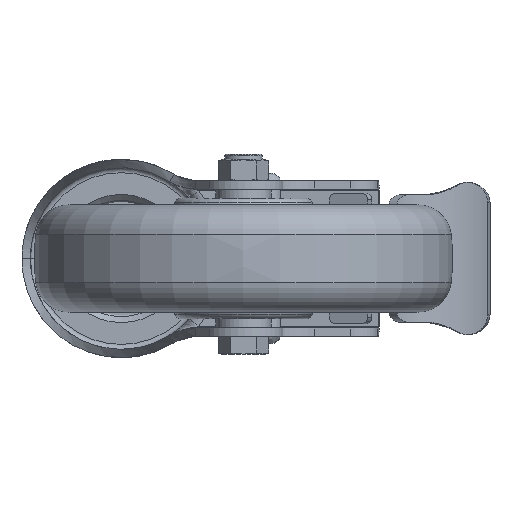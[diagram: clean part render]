
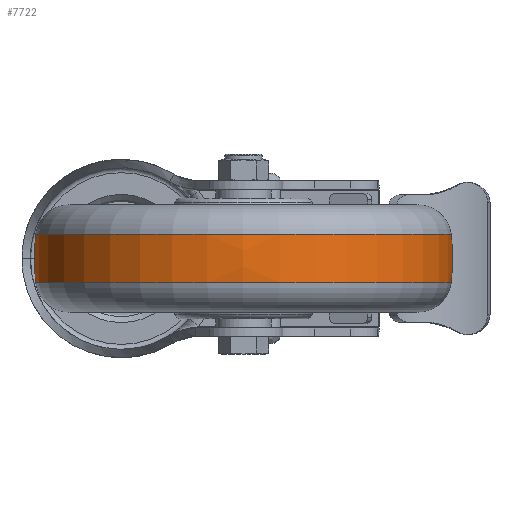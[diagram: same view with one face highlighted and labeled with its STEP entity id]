
A CAD part, front view. The second image highlights one B-rep face of the part: STEP entity #7722.
In plain terms, the highlighted free-form (B-spline) face has degree [3, 3] with [7, 4] control points.
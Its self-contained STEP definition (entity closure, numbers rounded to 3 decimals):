
#7114=CARTESIAN_POINT('',(-7.2,0.,0.));
#7115=DIRECTION('',(-1.,0.,0.));
#7116=DIRECTION('',(0.,1.,0.));
#7117=AXIS2_PLACEMENT_3D('',#7114,#7115,#7116);
#7129=CARTESIAN_POINT('',(0.,2.5,0.));
#7130=DIRECTION('',(0.,0.,1.));
#7131=DIRECTION('',(0.12,0.993,0.));
#7132=AXIS2_PLACEMENT_3D('',#7129,#7130,#7131);
#7134=CARTESIAN_POINT('',(0.,-2.5,0.));
#7135=DIRECTION('',(0.,0.,-1.));
#7136=DIRECTION('',(0.12,-0.993,0.));
#7137=AXIS2_PLACEMENT_3D('',#7134,#7135,#7136);
#7139=CARTESIAN_POINT('',(7.2,0.,0.));
#7140=DIRECTION('',(-1.,0.,0.));
#7141=DIRECTION('',(0.,1.,0.));
#7142=AXIS2_PLACEMENT_3D('',#7139,#7140,#7141);
#7363=CARTESIAN_POINT('',(-7.2,62.066,0.));
#7365=VERTEX_POINT('',#7363);
#7367=CARTESIAN_POINT('',(-7.2,-62.066,
0.));
#7369=VERTEX_POINT('',#7367);
#7396=CARTESIAN_POINT('',(7.2,62.066,0.));
#7398=VERTEX_POINT('',#7396);
#7400=CARTESIAN_POINT('',(7.2,-62.066,
0.));
#7402=VERTEX_POINT('',#7400);
#7686=CARTESIAN_POINT('',(-7.487,-61.909,
3.895));
#7687=CARTESIAN_POINT('',(-2.509,-62.533,
3.934));
#7688=CARTESIAN_POINT('',(2.509,-62.533,3.934));
#7689=CARTESIAN_POINT('',(7.487,-61.909,3.895));
#7690=CARTESIAN_POINT('',(-7.487,-64.306,
-34.204));
#7691=CARTESIAN_POINT('',(-2.509,-64.955,
-34.549));
#7692=CARTESIAN_POINT('',(2.509,-64.955,
-34.549));
#7693=CARTESIAN_POINT('',(7.487,-64.306,
-34.204));
#7694=CARTESIAN_POINT('',(-7.487,-38.174,
-62.031));
#7695=CARTESIAN_POINT('',(-2.509,-38.559,
-62.657));
#7696=CARTESIAN_POINT('',(2.509,-38.559,
-62.657));
#7697=CARTESIAN_POINT('',(7.487,-38.174,
-62.031));
#7698=CARTESIAN_POINT('',(-7.487,0.,
-62.031));
#7699=CARTESIAN_POINT('',(-2.509,0.,
-62.657));
#7700=CARTESIAN_POINT('',(2.509,0.,
-62.657));
#7701=CARTESIAN_POINT('',(7.487,0.,
-62.031));
#7702=CARTESIAN_POINT('',(-7.487,38.174,
-62.031));
#7703=CARTESIAN_POINT('',(-2.509,38.559,
-62.657));
#7704=CARTESIAN_POINT('',(2.509,38.559,-62.657));
#7705=CARTESIAN_POINT('',(7.487,38.174,-62.031));
#7706=CARTESIAN_POINT('',(-7.487,64.306,
-34.204));
#7707=CARTESIAN_POINT('',(-2.509,64.955,
-34.549));
#7708=CARTESIAN_POINT('',(2.509,64.955,-34.549));
#7709=CARTESIAN_POINT('',(7.487,64.306,-34.204));
#7710=CARTESIAN_POINT('',(-7.487,61.909,3.895));
#7711=CARTESIAN_POINT('',(-2.509,62.533,3.934));
#7712=CARTESIAN_POINT('',(2.509,62.533,3.934));
#7713=CARTESIAN_POINT('',(7.487,61.909,3.895));
#7714=(BOUNDED_SURFACE()B_SPLINE_SURFACE(3,3,((#7686,#7687,#7688,#7689),(#7690,
#7691,#7692,#7693),(#7694,#7695,#7696,#7697),(#7698,#7699,#7700,#7701),(#7702,
#7703,#7704,#7705),(#7706,#7707,#7708,#7709),(#7710,#7711,#7712,#7713)),
.UNSPECIFIED.,.F.,.F.,.F.)B_SPLINE_SURFACE_WITH_KNOTS((4,3,4),(4,4),(0.,1.,
2.),(0.,1.),.UNSPECIFIED.)GEOMETRIC_REPRESENTATION_ITEM()RATIONAL_B_SPLINE_SURFACE(((1.192,1.186,1.186,1.192),(
0.941,0.936,0.936,0.941),(
0.941,0.936,0.936,0.941),(
1.192,1.186,1.186,1.192),(
0.941,0.936,0.936,0.941),(
0.941,0.936,0.936,0.941),(
1.192,1.186,1.186,1.192)))REPRESENTATION_ITEM('')SURFACE());
#7715=ORIENTED_EDGE('',*,*,#7676,.T.);
#7716=ORIENTED_EDGE('',*,*,#7629,.T.);
#7717=ORIENTED_EDGE('',*,*,#7680,.F.);
#7719=ORIENTED_EDGE('',*,*,#7718,.F.);
#7720=EDGE_LOOP('',(#7715,#7716,#7717,#7719));
#7721=FACE_OUTER_BOUND('',#7720,.F.);
#7118=CIRCLE('',#7117,62.066);
#7133=CIRCLE('',#7132,60.);
#7138=CIRCLE('',#7137,60.);
#7143=CIRCLE('',#7142,62.066);
#7629=EDGE_CURVE('',#7365,#7369,#7118,.T.);
#7676=EDGE_CURVE('',#7398,#7365,#7133,.T.);
#7680=EDGE_CURVE('',#7402,#7369,#7138,.T.);
#7718=EDGE_CURVE('',#7398,#7402,#7143,.T.);
#7722=ADVANCED_FACE('',(#7721),#7714,.T.);
